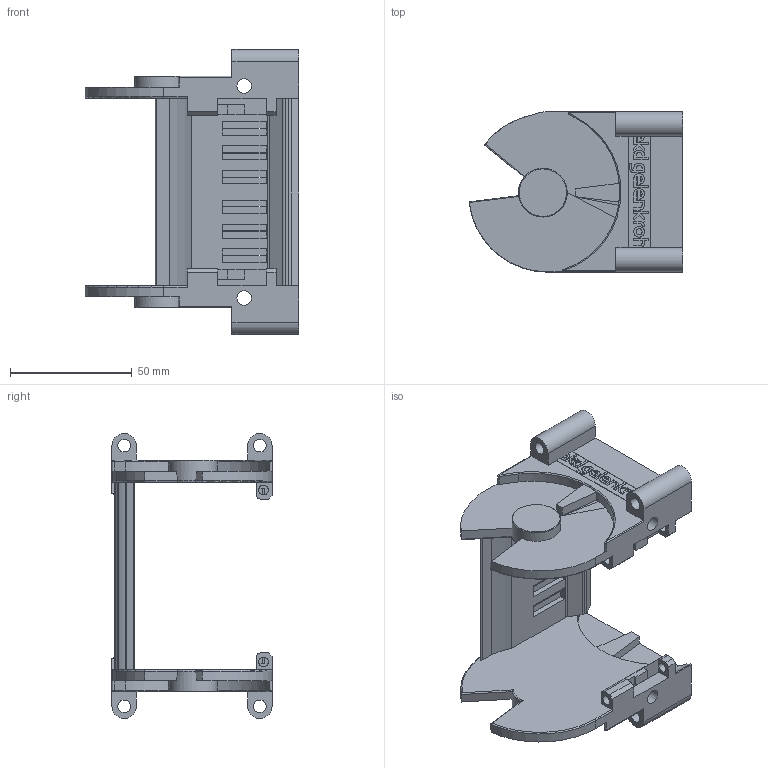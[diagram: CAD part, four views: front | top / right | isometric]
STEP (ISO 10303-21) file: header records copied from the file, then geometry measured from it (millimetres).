
FILE_DESCRIPTION((''),'2;1');
FILE_NAME('C:\Uebbing\PARAMETERKETTEN\KOLIBRI\Kol_65_095_5\Kol_65_095_5 Stirnflansch Zapfen.stp','2012-03-06T08:31:56',('Uebbing'),(''),'Autodesk Inventor 10','Autodesk Inventor 10','');
FILE_SCHEMA(('AUTOMOTIVE_DESIGN { 1 0 10303 214 1 1 1 1 }'));
Length unit declared in the file: millimetre
Products named in the file (1): Kol_65_095_5 Stirnflansch Zapfen
Bounding box: 87.78 x 65.7 x 117 mm (x, y, z)
Volume: 59771.3 mm3; surface area: 44819.8 mm2
Topology: 1 solids, 1 shells, 393 faces, 1102 edges, 709 vertices
Faces by surface type: plane 274, cylinder 101, torus 8, sphere 4, bspline 4, cone 2
Full cylindrical faces by diameter (mm): 2.514 x1, 4 x4, 4.414 x1, 5.2 x4, 6 x2, 20 x2
Entity records: 12593 total; most frequent: CARTESIAN_POINT 2379, ORIENTED_EDGE 2138, DIRECTION 2084, EDGE_CURVE 1069, VECTOR 806, LINE 806, VERTEX_POINT 696, AXIS2_PLACEMENT_3D 639
